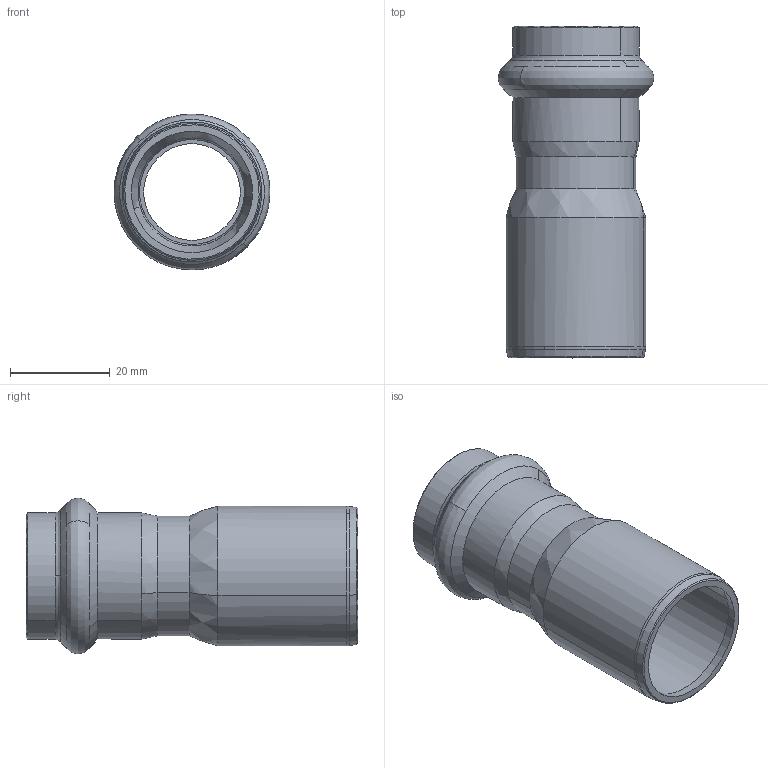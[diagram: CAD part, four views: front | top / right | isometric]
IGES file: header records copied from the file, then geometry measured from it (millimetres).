
Start section: Elysium IGES Interface
Global section: file name: C:\Users\Wallenburg\Desktop\3d modellen sudo\S-Pr VP\SP6243V\6243VW2822.igs; native system: CoCreate Modeling 17.00A  17-Jun-2010; preprocessor: CoCreate IGES_3D V2.2; author: Unknown; organization: Unknown; date: 20130124.092125; units: millimetre
Bounding box: 31.18 x 66.4 x 31.18 mm (x, y, z)
Volume: 9250.8 mm3; surface area: 11150.7 mm2
Topology: 1 solids, 1 shells, 58 faces, 148 edges, 90 vertices
Faces by surface type: bspline 58
